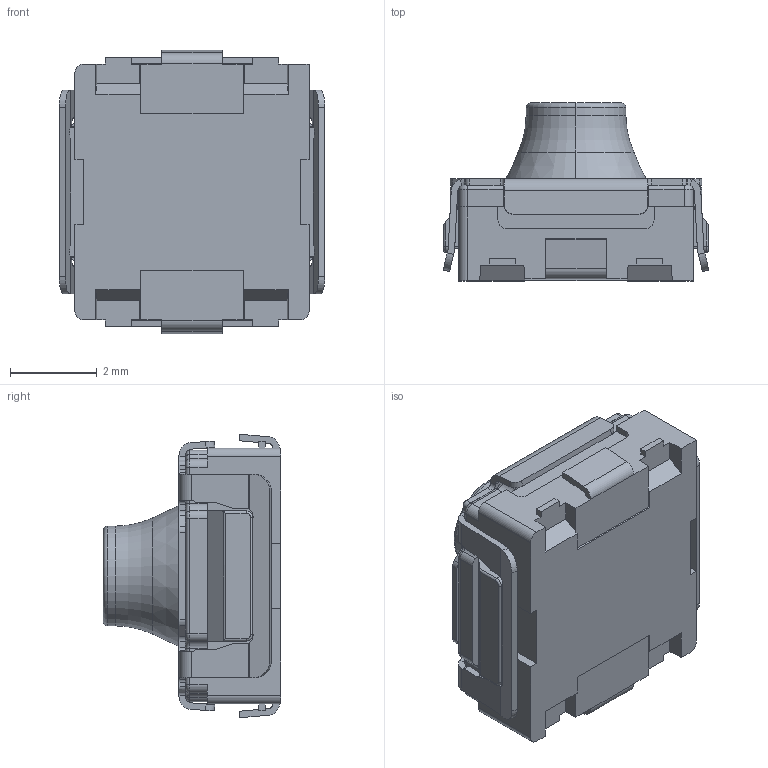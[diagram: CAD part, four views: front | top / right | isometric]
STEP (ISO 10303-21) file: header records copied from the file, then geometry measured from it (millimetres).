
FILE_DESCRIPTION (( 'STEP AP214' ), '1' );
FILE_NAME ('SKTRAEE010_3D DATA.STEP', '2019-03-05T09:44:37', ( '' ), ( '' ), 'SwSTEP 2.0', 'SolidWorks 2017', '' );
FILE_SCHEMA (( 'AUTOMOTIVE_DESIGN' ));
Length unit declared in the file: millimetre
Products named in the file (2): SKTRAEE010_3D DATA; 3D
Assembly tree (1 placements, depth 2):
  SKTRAEE010_3D DATA
    3D
Bounding box: 6.12 x 4.1 x 6.53 mm (x, y, z)
Volume: 83.6 mm3; surface area: 191.5 mm2
Topology: 1 solids, 1 shells, 375 faces, 1041 edges, 662 vertices
Faces by surface type: plane 184, cylinder 137, torus 38, bspline 12, cone 4
Entity records: 16402 total; most frequent: CARTESIAN_POINT 2530, ORIENTED_EDGE 2082, DIRECTION 2043, EDGE_CURVE 1041, AXIS2_PLACEMENT_3D 703, VERTEX_POINT 662, VECTOR 637, LINE 637
